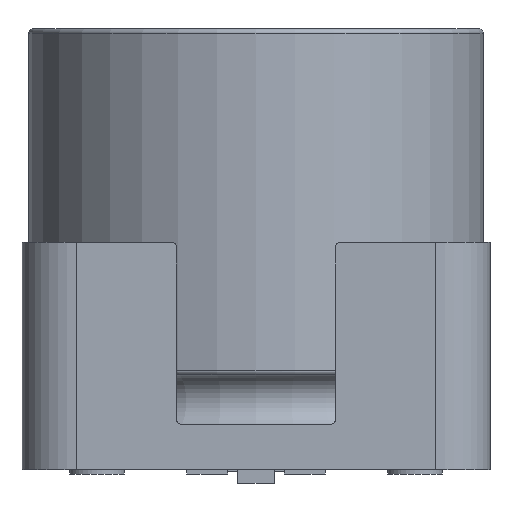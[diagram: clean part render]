
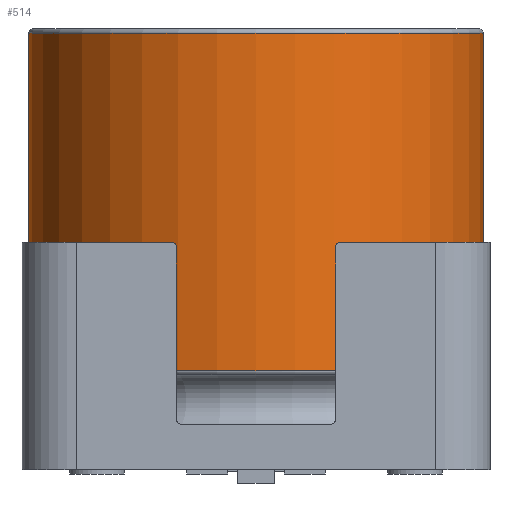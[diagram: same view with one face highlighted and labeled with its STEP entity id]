
A CAD part, left-side view. The second image highlights one B-rep face of the part: STEP entity #514.
In plain terms, the highlighted cylindrical face has radius 5 mm (diameter 10 mm), a full revolution.
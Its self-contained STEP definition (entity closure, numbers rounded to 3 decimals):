
#253=CYLINDRICAL_SURFACE('',#3014,5.);
#514=ADVANCED_FACE('',(#726,#727),#253,.T.);
#726=FACE_BOUND('',#810,.T.);
#727=FACE_BOUND('',#811,.T.);
#810=EDGE_LOOP('',(#1320));
#811=EDGE_LOOP('',(#1321));
#957=CIRCLE('',#3012,5.);
#958=CIRCLE('',#3013,5.);
#1320=ORIENTED_EDGE('',*,*,#2191,.T.);
#1321=ORIENTED_EDGE('',*,*,#2192,.T.);
#1895=VERTEX_POINT('',#4462);
#1896=VERTEX_POINT('',#4464);
#2191=EDGE_CURVE('',#1895,#1895,#957,.T.);
#2192=EDGE_CURVE('',#1896,#1896,#958,.T.);
#3012=AXIS2_PLACEMENT_3D('',#4461,#3488,#3489);
#3013=AXIS2_PLACEMENT_3D('',#4463,#3490,#3491);
#3014=AXIS2_PLACEMENT_3D('',#4465,#3492,#3493);
#3488=DIRECTION('',(0.,0.,1.));
#3489=DIRECTION('',(1.,0.,0.));
#3490=DIRECTION('',(0.,0.,-1.));
#3491=DIRECTION('',(-1.,0.,0.));
#3492=DIRECTION('',(0.,0.,-1.));
#3493=DIRECTION('',(-1.,0.,0.));
#4461=CARTESIAN_POINT('',(0.,0.,2.178));
#4462=CARTESIAN_POINT('',(5.,0.,2.178));
#4463=CARTESIAN_POINT('',(0.,0.,9.6));
#4464=CARTESIAN_POINT('',(-5.,0.,9.6));
#4465=CARTESIAN_POINT('',(0.,0.,0.));
